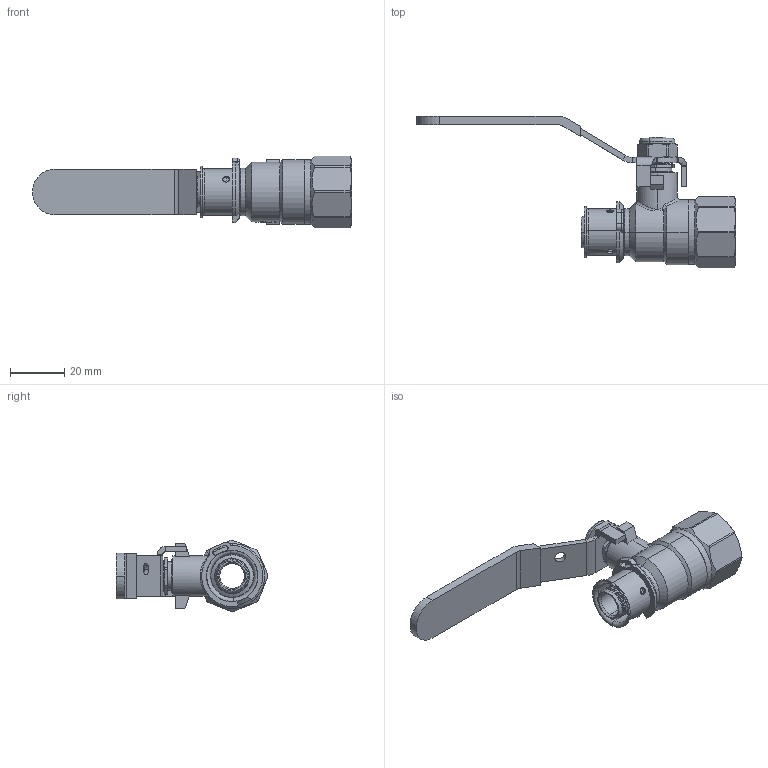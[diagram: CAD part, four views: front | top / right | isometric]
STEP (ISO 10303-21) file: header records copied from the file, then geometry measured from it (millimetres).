
FILE_DESCRIPTION (( 'STEP AP203' ), '1' );
FILE_NAME ('150-723G.STEP', '2026-05-15T01:56:25', ( '' ), ( '' ), 'SwSTEP 2.0', 'SolidWorks 2014', '' );
FILE_SCHEMA (( 'CONFIG_CONTROL_DESIGN' ));
Length unit declared in the file: millimetre
Products named in the file (13): 17球; 5.5x1.5(O型圈); 3347塑料限位圈050; FIBV01Aｸﾇ; 15密封圈; 050忒梟; 150-723G; 050概极; M12ѹñ; 11沓蹋; 050詩杶; 29b概裝; M8滅侂蹟譫
Assembly tree (13 placements, depth 2):
  150-723G
    050概极
    M8滅侂蹟譫
    11沓蹋
    17球
    29b概裝
    3347塑料限位圈050
    5.5x1.5(O型圈)
    15密封圈  x2
    M12ѹñ
    050忒梟
    050詩杶
    FIBV01Aｸﾇ
Bounding box: 118.1 x 56.23 x 26.49 mm (x, y, z)
Volume: 20243.6 mm3; surface area: 21274.7 mm2
Topology: 13 solids, 13 shells, 630 faces, 1596 edges, 1002 vertices
Faces by surface type: cylinder 231, plane 158, cone 107, bspline 86, torus 46, sphere 2
Entity records: 47333 total; most frequent: CARTESIAN_POINT 31985, ORIENTED_EDGE 3132, DIRECTION 2700, EDGE_CURVE 1566, AXIS2_PLACEMENT_3D 1073, VERTEX_POINT 986, EDGE_LOOP 668, ADVANCED_FACE 620
